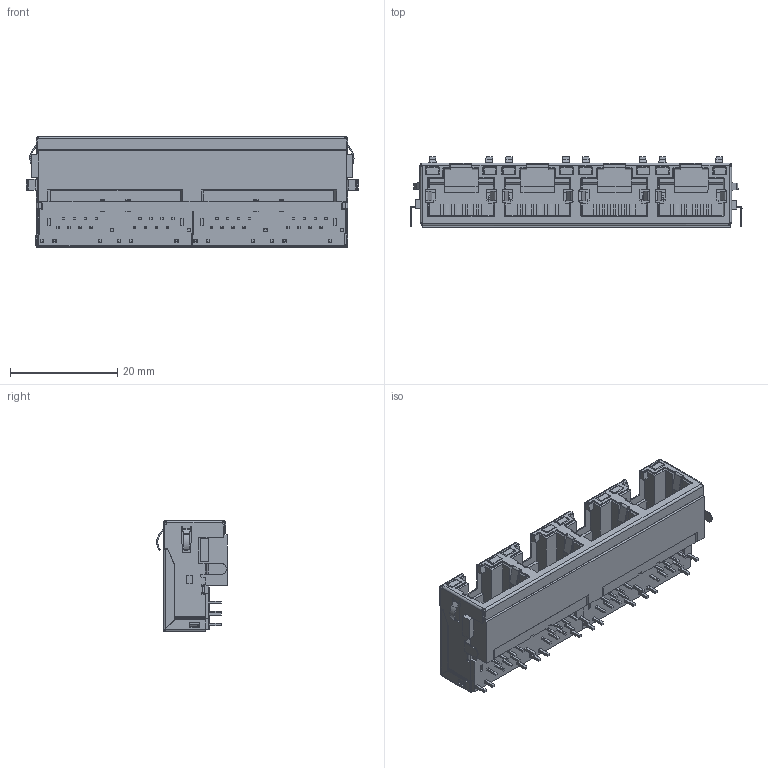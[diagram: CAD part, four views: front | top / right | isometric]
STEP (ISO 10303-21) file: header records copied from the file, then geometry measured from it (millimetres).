
FILE_DESCRIPTION((''),'2;1');
FILE_NAME('8701','2022-08-10T17:42:52',('Administrator'),(''),'CREO PARAMETRIC BY PTC INC, 2020033','CREO PARAMETRIC BY PTC INC, 2020033','');
FILE_SCHEMA(('CONFIG_CONTROL_DESIGN'));
Products named in the file (1): 8701
Bounding box: 61.94 x 13.16 x 20.75 mm (x, y, z)
Volume: 8026.8 mm3; surface area: 12860.4 mm2
Topology: 1 solids, 4 shells, 3464 faces, 9800 edges, 6276 vertices
Faces by surface type: plane 2722, cylinder 581, bspline 83, sphere 56, torus 21, cone 1
Entity records: 113673 total; most frequent: CARTESIAN_POINT 23854, ORIENTED_EDGE 19488, DIRECTION 17334, EDGE_CURVE 9744, VECTOR 8444, LINE 8444, VERTEX_POINT 6276, AXIS2_PLACEMENT_3D 4445
